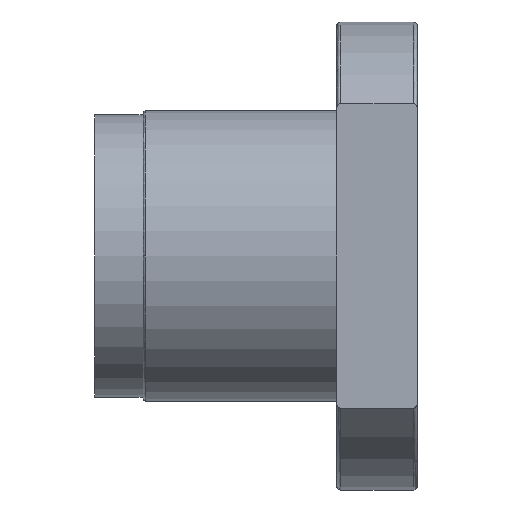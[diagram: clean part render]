
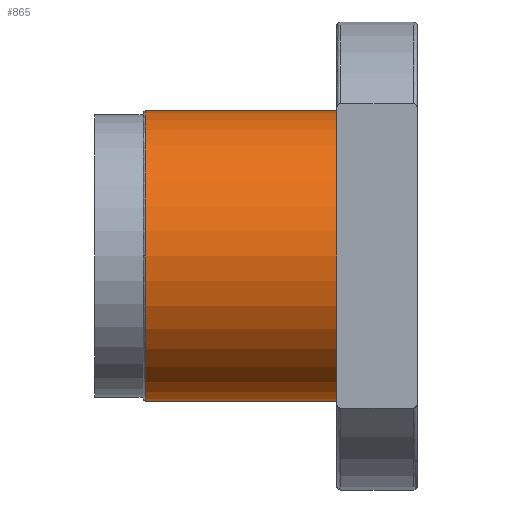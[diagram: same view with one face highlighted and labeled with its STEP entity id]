
A CAD part, front view. The second image highlights one B-rep face of the part: STEP entity #865.
In plain terms, the highlighted cylindrical face has radius 18 mm (diameter 36 mm), a partial arc.
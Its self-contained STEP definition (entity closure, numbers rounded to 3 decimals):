
#18 = CARTESIAN_POINT ( 'NONE',  ( -47.789, 0., 18. ) ) ;
#42 = DIRECTION ( 'NONE',  ( 1., 0., 0. ) ) ;
#69 = EDGE_CURVE ( 'NONE', #971, #1725, #1717, .T. ) ;
#74 = VERTEX_POINT ( 'NONE', #555 ) ;
#168 = EDGE_CURVE ( 'NONE', #1725, #74, #2149, .T. ) ;
#202 = CARTESIAN_POINT ( 'NONE',  ( -47.789, 0., -18. ) ) ;
#242 = EDGE_CURVE ( 'NONE', #456, #74, #1046, .T. ) ;
#328 = CIRCLE ( 'NONE', #2199, 18. ) ;
#374 = VECTOR ( 'NONE', #42, 1000. ) ;
#395 = ORIENTED_EDGE ( 'NONE', *, *, #168, .T. ) ;
#419 = CIRCLE ( 'NONE', #1831, 18. ) ;
#456 = VERTEX_POINT ( 'NONE', #1347 ) ;
#463 = EDGE_LOOP ( 'NONE', ( #538, #1172, #2038, #2137, #395 ) ) ;
#538 = ORIENTED_EDGE ( 'NONE', *, *, #242, .F. ) ;
#555 = CARTESIAN_POINT ( 'NONE',  ( -24.089, 0., 18. ) ) ;
#556 = DIRECTION ( 'NONE',  ( 1., 0., 0. ) ) ;
#608 = VECTOR ( 'NONE', #1690, 1000. ) ;
#683 = DIRECTION ( 'NONE',  ( 0., 0., -1. ) ) ;
#865 = ADVANCED_FACE ( 'NONE', ( #1050 ), #2079, .T. ) ;
#971 = VERTEX_POINT ( 'NONE', #1239 ) ;
#1046 = LINE ( 'NONE', #18, #608 ) ;
#1050 = FACE_OUTER_BOUND ( 'NONE', #463, .T. ) ;
#1061 = CARTESIAN_POINT ( 'NONE',  ( -24.089, 0., -18. ) ) ;
#1090 = DIRECTION ( 'NONE',  ( 0., 0., -1. ) ) ;
#1122 = CARTESIAN_POINT ( 'NONE',  ( -47.789, 0., 0. ) ) ;
#1172 = ORIENTED_EDGE ( 'NONE', *, *, #1693, .T. ) ;
#1239 = CARTESIAN_POINT ( 'NONE',  ( -47.789, 0., -18. ) ) ;
#1274 = EDGE_CURVE ( 'NONE', #2084, #971, #419, .T. ) ;
#1347 = CARTESIAN_POINT ( 'NONE',  ( -47.789, 0., 18. ) ) ;
#1390 = AXIS2_PLACEMENT_3D ( 'NONE', #2197, #556, #1899 ) ;
#1441 = CARTESIAN_POINT ( 'NONE',  ( -47.789, -18., 0. ) ) ;
#1453 = DIRECTION ( 'NONE',  ( 0., 0., -1. ) ) ;
#1486 = DIRECTION ( 'NONE',  ( -1., 0., 0. ) ) ;
#1570 = AXIS2_PLACEMENT_3D ( 'NONE', #1669, #1486, #1453 ) ;
#1669 = CARTESIAN_POINT ( 'NONE',  ( -24.089, 0., 0. ) ) ;
#1690 = DIRECTION ( 'NONE',  ( 1., 0., 0. ) ) ;
#1693 = EDGE_CURVE ( 'NONE', #456, #2084, #328, .T. ) ;
#1707 = CARTESIAN_POINT ( 'NONE',  ( -47.789, 0., 0. ) ) ;
#1717 = LINE ( 'NONE', #202, #374 ) ;
#1725 = VERTEX_POINT ( 'NONE', #1061 ) ;
#1831 = AXIS2_PLACEMENT_3D ( 'NONE', #1122, #1974, #1090 ) ;
#1899 = DIRECTION ( 'NONE',  ( 0., 0., -1. ) ) ;
#1923 = DIRECTION ( 'NONE',  ( 1., 0., 0. ) ) ;
#1974 = DIRECTION ( 'NONE',  ( 1., 0., 0. ) ) ;
#2038 = ORIENTED_EDGE ( 'NONE', *, *, #1274, .T. ) ;
#2079 = CYLINDRICAL_SURFACE ( 'NONE', #1390, 18. ) ;
#2084 = VERTEX_POINT ( 'NONE', #1441 ) ;
#2137 = ORIENTED_EDGE ( 'NONE', *, *, #69, .T. ) ;
#2149 = CIRCLE ( 'NONE', #1570, 18. ) ;
#2197 = CARTESIAN_POINT ( 'NONE',  ( -47.789, 0., 0. ) ) ;
#2199 = AXIS2_PLACEMENT_3D ( 'NONE', #1707, #1923, #683 ) ;
